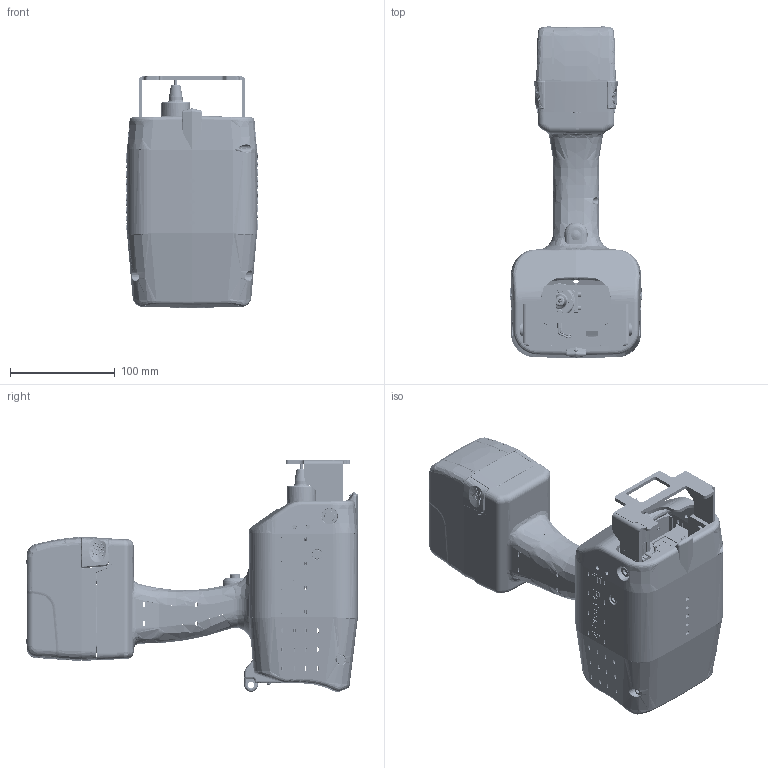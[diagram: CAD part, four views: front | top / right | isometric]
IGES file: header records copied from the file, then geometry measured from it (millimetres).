
Start section: SolidWorks IGES file using analytic representation for surfaces
Global section: file name: C:\東京彫刻 Solidworks Data\PM関係\PM3315S\外部資料用\外観図(HP用)\SW_DATA\Patmark_180620 HP用 3D Battery type.IGS; native system: SolidWorks 2016; preprocessor: SolidWorks 2016; author: hp-cp3; date: 181205.130129; units: millimetre
Bounding box: 125.6 x 316.5 x 221 mm (x, y, z)
Surface area: 616191.3 mm2 (no closed solid volume)
Topology: 0 solids, 0 shells, 7973 faces, 89808 edges, 89622 vertices
Faces by surface type: bspline 4956, revolution 3017
